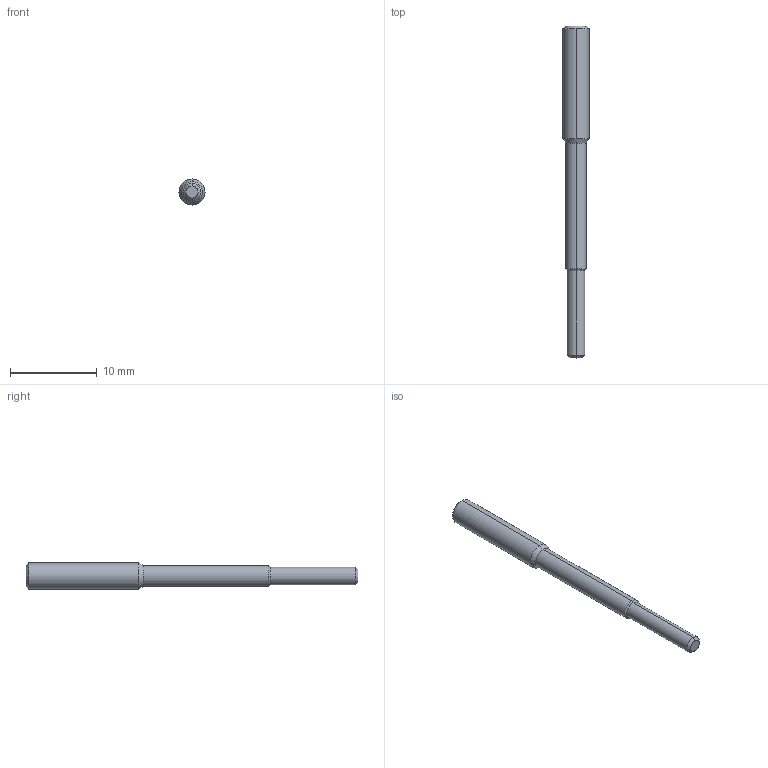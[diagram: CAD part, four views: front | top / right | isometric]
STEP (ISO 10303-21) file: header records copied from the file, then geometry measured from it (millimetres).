
FILE_DESCRIPTION (( 'STEP AP214' ), '1' );
FILE_NAME ('酗裝.STEP', '2026-07-10T09:35:19', ( '' ), ( '' ), 'SwSTEP 2.0', 'SolidWorks 2024', '' );
FILE_SCHEMA (( 'AUTOMOTIVE_DESIGN' ));
Length unit declared in the file: millimetre
Products named in the file (1): 长杆
Bounding box: 3 x 38.3 x 3 mm (x, y, z)
Volume: 185.6 mm3; surface area: 325.8 mm2
Topology: 1 solids, 1 shells, 29 faces, 54 edges, 28 vertices
Faces by surface type: cone 14, plane 9, cylinder 6
Entity records: 747 total; most frequent: CARTESIAN_POINT 150, DIRECTION 130, ORIENTED_EDGE 108, EDGE_CURVE 54, AXIS2_PLACEMENT_3D 52, EDGE_LOOP 30, ADVANCED_FACE 29, FACE_OUTER_BOUND 29
